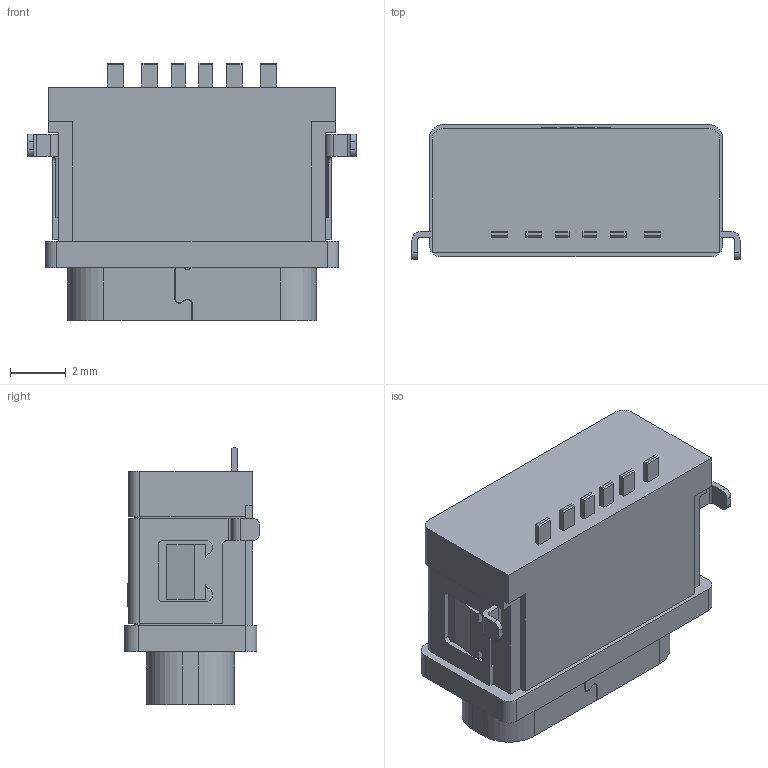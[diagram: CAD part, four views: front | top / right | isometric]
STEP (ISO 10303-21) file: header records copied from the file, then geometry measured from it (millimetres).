
FILE_DESCRIPTION (( 'STEP AP214' ), '1' );
FILE_NAME ('U5270-06PN0.55C8.4LF.STEP', '2026-07-29T08:29:49', ( '' ), ( '' ), 'SwSTEP 2.0', 'SolidWorks 2024', '' );
FILE_SCHEMA (( 'AUTOMOTIVE_DESIGN' ));
Length unit declared in the file: millimetre
Products named in the file (1): U5270-06PN0.55C8.4LF
Bounding box: 11.8 x 4.86 x 9.25 mm (x, y, z)
Volume: 267 mm3; surface area: 641.2 mm2
Topology: 1 solids, 3 shells, 848 faces, 2344 edges, 1544 vertices
Faces by surface type: plane 677, cylinder 134, bspline 25, cone 12
Entity records: 28132 total; most frequent: CARTESIAN_POINT 6335, ORIENTED_EDGE 4688, DIRECTION 4214, EDGE_CURVE 2344, VECTOR 2002, LINE 2002, VERTEX_POINT 1544, AXIS2_PLACEMENT_3D 1106
